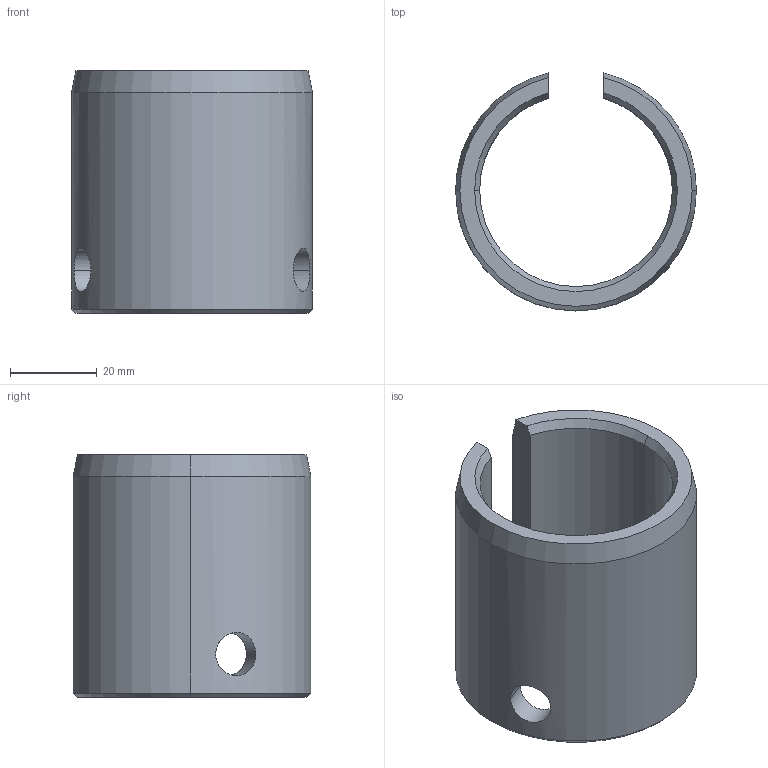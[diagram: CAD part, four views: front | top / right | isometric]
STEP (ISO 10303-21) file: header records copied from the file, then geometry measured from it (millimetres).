
FILE_DESCRIPTION (( 'STEP AP203' ), '1' );
FILE_NAME ('KBSH083P28.STEP', '2023-08-01T05:27:24', ( '' ), ( '' ), 'SwSTEP 2.0', 'SolidWorks 2017', '' );
FILE_SCHEMA (( 'CONFIG_CONTROL_DESIGN' ));
Length unit declared in the file: millimetre
Products named in the file (1): KBSH083P28
Bounding box: 55.56 x 54.83 x 56 mm (x, y, z)
Volume: 43231 mm3; surface area: 17968.4 mm2
Topology: 1 solids, 1 shells, 26 faces, 64 edges, 40 vertices
Faces by surface type: cone 12, cylinder 10, plane 4
Entity records: 1129 total; most frequent: CARTESIAN_POINT 439, ORIENTED_EDGE 128, DIRECTION 126, EDGE_CURVE 64, AXIS2_PLACEMENT_3D 51, VERTEX_POINT 40, EDGE_LOOP 30, ADVANCED_FACE 26
